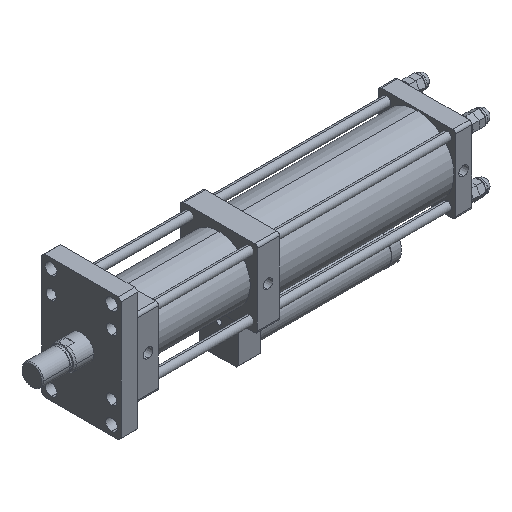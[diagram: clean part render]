
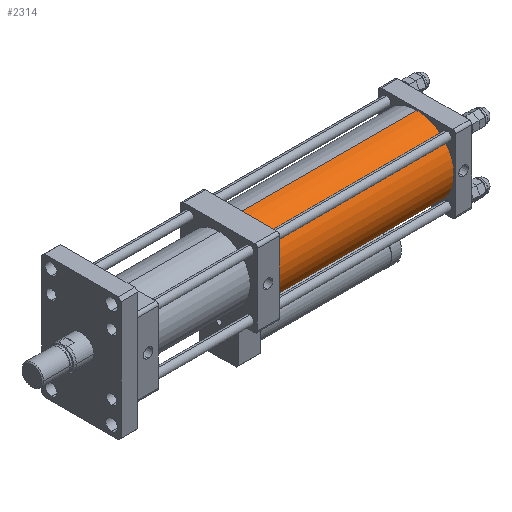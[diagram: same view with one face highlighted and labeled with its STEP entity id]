
A CAD part, isometric view. The second image highlights one B-rep face of the part: STEP entity #2314.
In plain terms, the highlighted cylindrical face has radius 67.5 mm (diameter 135 mm), a partial arc.
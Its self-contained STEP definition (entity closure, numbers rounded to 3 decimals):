
#132 = VERTEX_POINT ( 'NONE', #3246 ) ;
#523 = VECTOR ( 'NONE', #7808, 1000. ) ;
#627 = CYLINDRICAL_SURFACE ( 'NONE', #3896, 67.5 ) ;
#788 = FACE_OUTER_BOUND ( 'NONE', #12355, .T. ) ;
#1105 = VECTOR ( 'NONE', #5551, 1000. ) ;
#1118 = LINE ( 'NONE', #1540, #1105 ) ;
#1315 = AXIS2_PLACEMENT_3D ( 'NONE', #12017, #11975, #11850 ) ;
#1540 = CARTESIAN_POINT ( 'NONE',  ( 700., 0., 67.5 ) ) ;
#2314 = ADVANCED_FACE ( 'NONE', ( #788 ), #627, .T. ) ;
#2496 = CARTESIAN_POINT ( 'NONE',  ( 380., 0., 0. ) ) ;
#2811 = ORIENTED_EDGE ( 'NONE', *, *, #8235, .F. ) ;
#3174 = CARTESIAN_POINT ( 'NONE',  ( 380., 0., -67.5 ) ) ;
#3246 = CARTESIAN_POINT ( 'NONE',  ( 380., 0., 67.5 ) ) ;
#3529 = DIRECTION ( 'NONE',  ( 0., 0., -1. ) ) ;
#3896 = AXIS2_PLACEMENT_3D ( 'NONE', #4869, #4674, #4942 ) ;
#4674 = DIRECTION ( 'NONE',  ( -1., 0., 0. ) ) ;
#4744 = AXIS2_PLACEMENT_3D ( 'NONE', #2496, #9384, #3529 ) ;
#4869 = CARTESIAN_POINT ( 'NONE',  ( 700., 0., 0. ) ) ;
#4942 = DIRECTION ( 'NONE',  ( 0., 0., 1. ) ) ;
#5239 = CARTESIAN_POINT ( 'NONE',  ( 700., 0., -67.5 ) ) ;
#5551 = DIRECTION ( 'NONE',  ( -1., 0., 0. ) ) ;
#6183 = CIRCLE ( 'NONE', #4744, 67.5 ) ;
#6755 = ORIENTED_EDGE ( 'NONE', *, *, #8819, .F. ) ;
#7808 = DIRECTION ( 'NONE',  ( -1., 0., 0. ) ) ;
#8043 = CARTESIAN_POINT ( 'NONE',  ( 700., 0., -67.5 ) ) ;
#8235 = EDGE_CURVE ( 'NONE', #9075, #9997, #9722, .T. ) ;
#8765 = LINE ( 'NONE', #8043, #523 ) ;
#8819 = EDGE_CURVE ( 'NONE', #9997, #9978, #8765, .T. ) ;
#9075 = VERTEX_POINT ( 'NONE', #12525 ) ;
#9384 = DIRECTION ( 'NONE',  ( 1., 0., 0. ) ) ;
#9722 = CIRCLE ( 'NONE', #1315, 67.5 ) ;
#9978 = VERTEX_POINT ( 'NONE', #3174 ) ;
#9997 = VERTEX_POINT ( 'NONE', #5239 ) ;
#10150 = EDGE_CURVE ( 'NONE', #132, #9978, #6183, .T. ) ;
#11115 = ORIENTED_EDGE ( 'NONE', *, *, #10150, .T. ) ;
#11850 = DIRECTION ( 'NONE',  ( 0., 0., -1. ) ) ;
#11975 = DIRECTION ( 'NONE',  ( 1., 0., 0. ) ) ;
#12017 = CARTESIAN_POINT ( 'NONE',  ( 700., 0., 0. ) ) ;
#12291 = ORIENTED_EDGE ( 'NONE', *, *, #12523, .T. ) ;
#12355 = EDGE_LOOP ( 'NONE', ( #6755, #2811, #12291, #11115 ) ) ;
#12523 = EDGE_CURVE ( 'NONE', #9075, #132, #1118, .T. ) ;
#12525 = CARTESIAN_POINT ( 'NONE',  ( 700., 0., 67.5 ) ) ;
